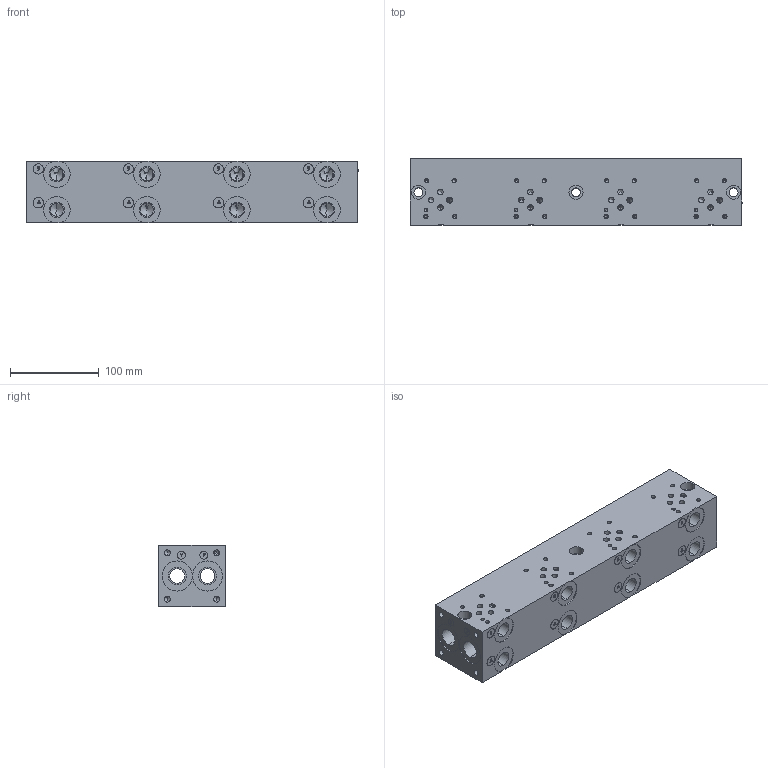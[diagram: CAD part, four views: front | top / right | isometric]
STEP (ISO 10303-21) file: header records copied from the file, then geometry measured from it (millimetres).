
FILE_DESCRIPTION (( 'STEP AP203' ), '1' );
FILE_NAME ('BM-ASP03S4-04-1_Z.STEP', '2015-01-06T15:42:59', ( '' ), ( '' ), 'SwSTEP 2.0', 'SolidWorks 2014', '' );
FILE_SCHEMA (( 'CONFIG_CONTROL_DESIGN' ));
Length unit declared in the file: inch
Products named in the file (1): BM-ASP03S4-04-1_Z
Bounding box: 374.65 x 74.93 x 69.85 mm (x, y, z)
Volume: 1702225.2 mm3; surface area: 191156.3 mm2
Topology: 1 solids, 1 shells, 583 faces, 1490 edges, 916 vertices
Faces by surface type: cylinder 234, plane 201, cone 100, bspline 48
Entity records: 21021 total; most frequent: CARTESIAN_POINT 7346, ORIENTED_EDGE 2804, DIRECTION 2724, EDGE_CURVE 1402, AXIS2_PLACEMENT_3D 990, VERTEX_POINT 916, LINE 744, VECTOR 744
